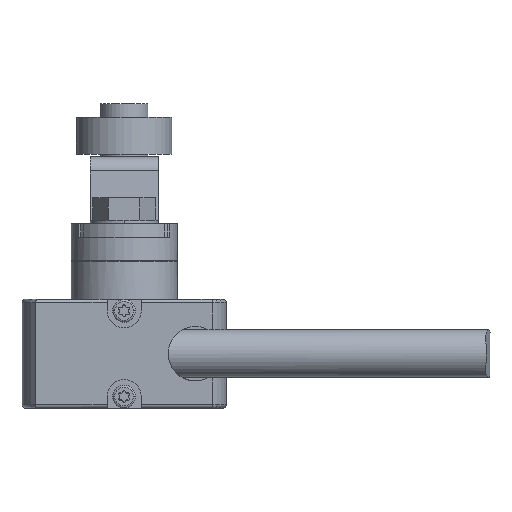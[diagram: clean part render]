
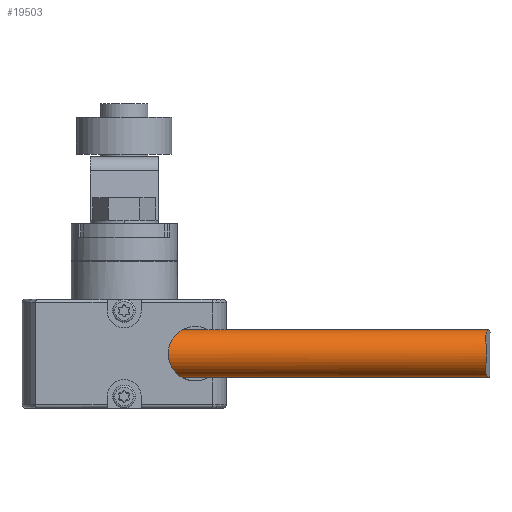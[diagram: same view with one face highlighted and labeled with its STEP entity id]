
A CAD part, front view. The second image highlights one B-rep face of the part: STEP entity #19503.
In plain terms, the highlighted cylindrical face has radius 3.5 mm (diameter 7 mm), a partial arc.
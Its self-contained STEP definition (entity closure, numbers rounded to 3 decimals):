
#2092 = CARTESIAN_POINT ( 'NONE',  ( 53.172, 1.632, -1.138 ) ) ;
#2223 = DIRECTION ( 'NONE',  ( -1., 0., 0. ) ) ;
#2272 = CARTESIAN_POINT ( 'NONE',  ( 53.196, 1.473, 0.461 ) ) ;
#2652 = CARTESIAN_POINT ( 'NONE',  ( 53.135, 2.833, 2.796 ) ) ;
#2719 = EDGE_CURVE ( 'NONE', #23423, #16378, #23588, .T. ) ;
#3982 = DIRECTION ( 'NONE',  ( -1., 0., 0. ) ) ;
#4100 = DIRECTION ( 'NONE',  ( 1., 0., 0. ) ) ;
#4889 = CIRCLE ( 'NONE', #23674, 3.5 ) ;
#4938 = CARTESIAN_POINT ( 'NONE',  ( 53.187, 3.214, 3.047 ) ) ;
#5123 = CARTESIAN_POINT ( 'NONE',  ( 53.15, 1.81, -1.562 ) ) ;
#6844 = CARTESIAN_POINT ( 'NONE',  ( 55., 4.95, 0. ) ) ;
#6908 = EDGE_CURVE ( 'NONE', #16378, #15596, #19961, .T. ) ;
#7664 = ORIENTED_EDGE ( 'NONE', *, *, #10608, .T. ) ;
#7781 = CARTESIAN_POINT ( 'NONE',  ( 53.114, 2.323, 2.324 ) ) ;
#7933 = CARTESIAN_POINT ( 'NONE',  ( 55., 4.95, -3.5 ) ) ;
#7980 = CARTESIAN_POINT ( 'NONE',  ( 53.224, 3.418, 3.155 ) ) ;
#8168 = CARTESIAN_POINT ( 'NONE',  ( 53.15, 1.808, 1.559 ) ) ;
#9689 = FACE_OUTER_BOUND ( 'NONE', #24851, .T. ) ;
#10608 = EDGE_CURVE ( 'NONE', #15596, #21423, #4889, .T. ) ;
#10632 = CARTESIAN_POINT ( 'NONE',  ( 53.224, 3.419, -3.156 ) ) ;
#10787 = CARTESIAN_POINT ( 'NONE',  ( 5., 4.95, 3.5 ) ) ;
#10813 = CARTESIAN_POINT ( 'NONE',  ( 53.121, 2.654, 2.652 ) ) ;
#11010 = CARTESIAN_POINT ( 'NONE',  ( 53.137, 1.921, -1.768 ) ) ;
#11196 = CARTESIAN_POINT ( 'NONE',  ( 53.121, 2.656, -2.653 ) ) ;
#12010 = CARTESIAN_POINT ( 'NONE',  ( 55., 4.95, 3.5 ) ) ;
#13116 = EDGE_CURVE ( 'NONE', #23423, #21423, #22323, .T. ) ;
#13645 = CARTESIAN_POINT ( 'NONE',  ( 53.182, 1.564, -0.917 ) ) ;
#15187 = AXIS2_PLACEMENT_3D ( 'NONE', #6844, #3982, #18396 ) ;
#15596 = VERTEX_POINT ( 'NONE', #10787 ) ;
#16306 = CARTESIAN_POINT ( 'NONE',  ( 53.172, 1.631, 1.133 ) ) ;
#16378 = VERTEX_POINT ( 'NONE', #17663 ) ;
#16503 = CARTESIAN_POINT ( 'NONE',  ( 53.529, 4.724, -3.5 ) ) ;
#17663 = CARTESIAN_POINT ( 'NONE',  ( 53.577, 4.95, 3.5 ) ) ;
#18396 = DIRECTION ( 'NONE',  ( 0., 0., 1. ) ) ;
#18885 = DIRECTION ( 'NONE',  ( 0., 0., -1. ) ) ;
#18961 = VECTOR ( 'NONE', #2223, 1000. ) ;
#19067 = ORIENTED_EDGE ( 'NONE', *, *, #6908, .T. ) ;
#19329 = CARTESIAN_POINT ( 'NONE',  ( 53.187, 3.218, -3.05 ) ) ;
#19503 = ADVANCED_FACE ( 'NONE', ( #9689 ), #21240, .T. ) ;
#19531 = CARTESIAN_POINT ( 'NONE',  ( 53.196, 1.473, -0.461 ) ) ;
#19961 = LINE ( 'NONE', #12010, #25286 ) ;
#21240 = CYLINDRICAL_SURFACE ( 'NONE', #15187, 3.5 ) ;
#21423 = VERTEX_POINT ( 'NONE', #22637 ) ;
#22181 = CARTESIAN_POINT ( 'NONE',  ( 53.474, 4.497, -3.478 ) ) ;
#22323 = LINE ( 'NONE', #7933, #18961 ) ;
#22362 = ORIENTED_EDGE ( 'NONE', *, *, #13116, .F. ) ;
#22565 = CARTESIAN_POINT ( 'NONE',  ( 53.314, 3.839, 3.327 ) ) ;
#22637 = CARTESIAN_POINT ( 'NONE',  ( 5., 4.95, -3.5 ) ) ;
#22745 = CARTESIAN_POINT ( 'NONE',  ( 53.315, 3.841, -3.328 ) ) ;
#23192 = DIRECTION ( 'NONE',  ( -1., 0., 0. ) ) ;
#23423 = VERTEX_POINT ( 'NONE', #35684 ) ;
#23588 = B_SPLINE_CURVE_WITH_KNOTS ( 'NONE', 3,
 ( #36577, #16503, #22181, #28052, #22745, #10632, #19329, #25206, #11196, #25395, #34292, #11010, #5123, #2092, #13645, #19531, #36754, #25028, #2272, #34484, #16306, #8168, #28615, #25771, #7781, #10813, #2652, #4938, #7980, #22565, #33729, #37319, #30892, #33918 ),
 .UNSPECIFIED., .F., .F.,
 ( 4, 2, 2, 2, 2, 2, 2, 2, 2, 2, 2, 2, 2, 2, 2, 2, 4 ),
 ( 0.011, 0.012, 0.012, 0.013, 0.014, 0.014, 0.015, 0.016, 0.017, 0.017, 0.018, 0.019, 0.019, 0.02, 0.021, 0.021, 0.022 ),
 .UNSPECIFIED. ) ;
#23674 = AXIS2_PLACEMENT_3D ( 'NONE', #30068, #4100, #18885 ) ;
#24851 = EDGE_LOOP ( 'NONE', ( #22362, #35094, #19067, #7664 ) ) ;
#25028 = CARTESIAN_POINT ( 'NONE',  ( 53.2, 1.45, 0.228 ) ) ;
#25206 = CARTESIAN_POINT ( 'NONE',  ( 53.136, 2.838, -2.8 ) ) ;
#25286 = VECTOR ( 'NONE', #23192, 1000. ) ;
#25395 = CARTESIAN_POINT ( 'NONE',  ( 53.114, 2.326, -2.328 ) ) ;
#25771 = CARTESIAN_POINT ( 'NONE',  ( 53.12, 2.176, 2.147 ) ) ;
#28052 = CARTESIAN_POINT ( 'NONE',  ( 53.367, 4.058, -3.392 ) ) ;
#28615 = CARTESIAN_POINT ( 'NONE',  ( 53.138, 1.919, 1.766 ) ) ;
#30068 = CARTESIAN_POINT ( 'NONE',  ( 5., 4.95, 0. ) ) ;
#30892 = CARTESIAN_POINT ( 'NONE',  ( 53.529, 4.722, 3.5 ) ) ;
#33729 = CARTESIAN_POINT ( 'NONE',  ( 53.366, 4.054, 3.391 ) ) ;
#33918 = CARTESIAN_POINT ( 'NONE',  ( 53.577, 4.95, 3.5 ) ) ;
#34292 = CARTESIAN_POINT ( 'NONE',  ( 53.119, 2.179, -2.151 ) ) ;
#34484 = CARTESIAN_POINT ( 'NONE',  ( 53.182, 1.564, 0.914 ) ) ;
#35094 = ORIENTED_EDGE ( 'NONE', *, *, #2719, .T. ) ;
#35684 = CARTESIAN_POINT ( 'NONE',  ( 53.577, 4.95, -3.5 ) ) ;
#36577 = CARTESIAN_POINT ( 'NONE',  ( 53.577, 4.95, -3.5 ) ) ;
#36754 = CARTESIAN_POINT ( 'NONE',  ( 53.2, 1.45, -0.232 ) ) ;
#37319 = CARTESIAN_POINT ( 'NONE',  ( 53.474, 4.496, 3.478 ) ) ;
